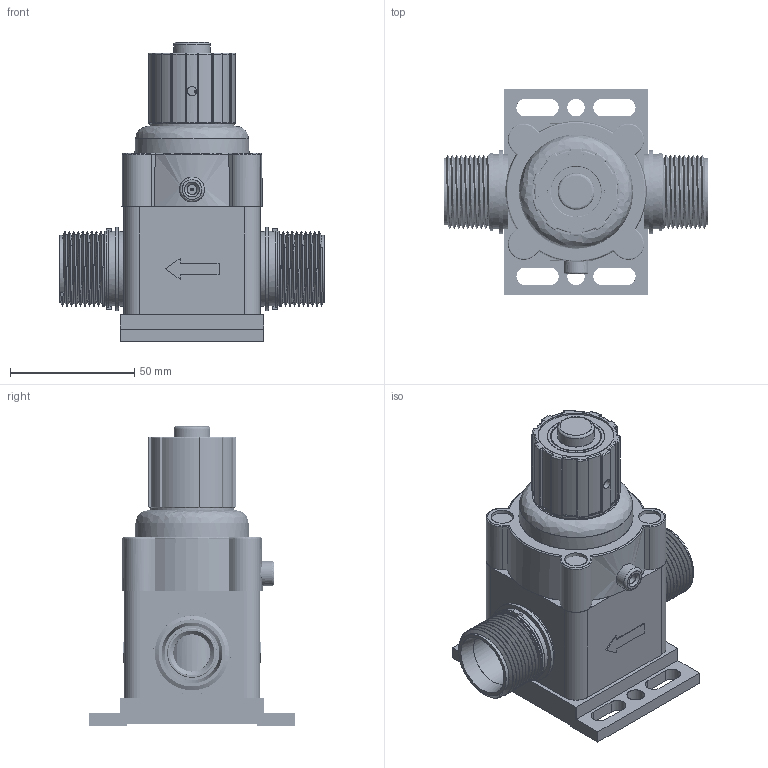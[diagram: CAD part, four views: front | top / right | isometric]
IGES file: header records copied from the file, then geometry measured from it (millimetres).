
Bounding box: 106.7 x 83 x 120.6 mm (x, y, z)
Surface area: 120025.2 mm2 (no closed solid volume)
Topology: 0 solids, 0 shells, 1382 faces, 9240 edges, 9101 vertices
Faces by surface type: bspline 1382
